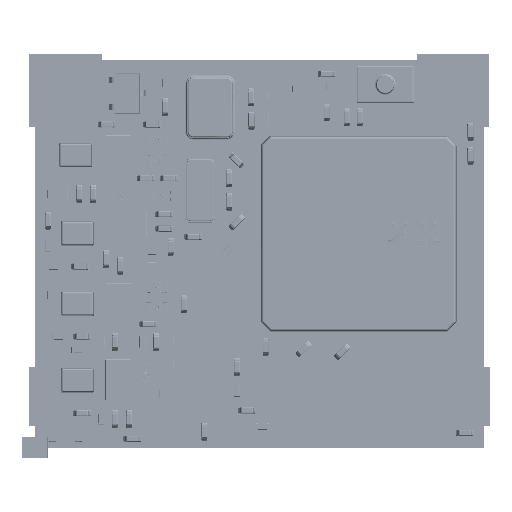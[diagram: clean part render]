
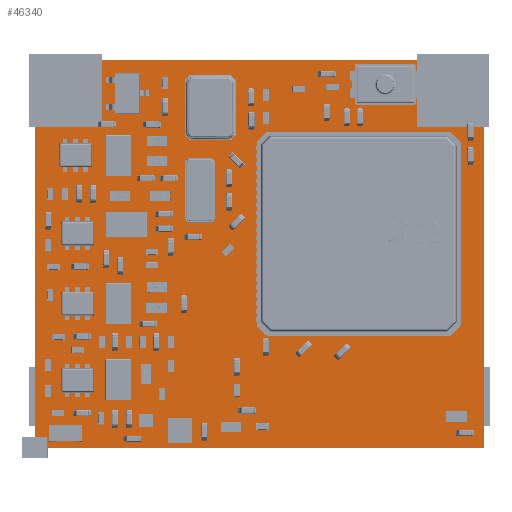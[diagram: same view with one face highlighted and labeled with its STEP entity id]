
A CAD part, top view. The second image highlights one B-rep face of the part: STEP entity #46340.
In plain terms, the highlighted planar face has unit normal (0, 0, 1).
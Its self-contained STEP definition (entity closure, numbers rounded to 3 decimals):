
#14975=CIRCLE($,#36921,0.771);
#14976=CIRCLE($,#36922,0.771);
#14979=CIRCLE($,#36927,0.771);
#14980=CIRCLE($,#36928,0.771);
#26536=FACE_OUTER_BOUND($,#31573,.F.);
#26542=FACE_OUTER_BOUND($,#31579,.T.);
#26546=FACE_OUTER_BOUND($,#31583,.T.);
#31573=EDGE_LOOP($,(#51373,#51374,#51375,#51376));
#31579=EDGE_LOOP($,(#51397,#51398));
#31583=EDGE_LOOP($,(#51409,#51410));
#36915=AXIS2_PLACEMENT_3D($,#139179,#118094,$);
#36921=AXIS2_PLACEMENT_3D($,#139191,#118094,$);
#36922=AXIS2_PLACEMENT_3D($,#139192,#118094,$);
#36927=AXIS2_PLACEMENT_3D($,#139203,#118094,$);
#36928=AXIS2_PLACEMENT_3D($,#139204,#118094,$);
#43015=PLANE($,#36915);
#46340=ADVANCED_FACE($,(#26536,#26542,#26546),#43015,.T.);
#51373=ORIENTED_EDGE($,*,*,#77430,.T.);
#51374=ORIENTED_EDGE($,*,*,#77431,.T.);
#51375=ORIENTED_EDGE($,*,*,#77432,.T.);
#51376=ORIENTED_EDGE($,*,*,#77433,.T.);
#51397=ORIENTED_EDGE($,*,*,#77443,.T.);
#51398=ORIENTED_EDGE($,*,*,#77444,.T.);
#51409=ORIENTED_EDGE($,*,*,#77450,.T.);
#51410=ORIENTED_EDGE($,*,*,#77451,.T.);
#77430=EDGE_CURVE($,#108929,#108930,#99697,.T.);
#77431=EDGE_CURVE($,#108930,#108931,#99698,.T.);
#77432=EDGE_CURVE($,#108931,#108932,#99699,.T.);
#77433=EDGE_CURVE($,#108932,#108929,#99700,.T.);
#77443=EDGE_CURVE($,#108939,#108940,#14975,.F.);
#77444=EDGE_CURVE($,#108940,#108939,#14976,.F.);
#77450=EDGE_CURVE($,#108945,#108946,#14979,.F.);
#77451=EDGE_CURVE($,#108946,#108945,#14980,.F.);
#90465=VECTOR($,#118097,19.);
#90466=VECTOR($,#118098,22.);
#90467=VECTOR($,#118099,19.);
#90468=VECTOR($,#118100,22.);
#99697=LINE($,#139178,#90465);
#99698=LINE($,#139179,#90466);
#99699=LINE($,#139180,#90467);
#99700=LINE($,#139181,#90468);
#108929=VERTEX_POINT($,#139178);
#108930=VERTEX_POINT($,#139179);
#108931=VERTEX_POINT($,#139180);
#108932=VERTEX_POINT($,#139181);
#108939=VERTEX_POINT($,#139188);
#108940=VERTEX_POINT($,#139189);
#108945=VERTEX_POINT($,#139200);
#108946=VERTEX_POINT($,#139201);
#118094=DIRECTION($,(0.,0.,1.));
#118097=DIRECTION($,(0.,-1.,0.));
#118098=DIRECTION($,(-1.,0.,0.));
#118099=DIRECTION($,(0.,1.,0.));
#118100=DIRECTION($,(1.,0.,0.));
#139178=CARTESIAN_POINT('',(22.,19.,0.));
#139179=CARTESIAN_POINT('',(22.,0.,0.));
#139180=CARTESIAN_POINT('',(0.,0.,0.));
#139181=CARTESIAN_POINT('',(0.,19.,0.));
#139188=CARTESIAN_POINT('',(2.271,17.5,0.));
#139189=CARTESIAN_POINT('',(0.729,17.5,0.));
#139191=CARTESIAN_POINT('',(1.5,17.5,0.));
#139192=CARTESIAN_POINT('',(1.5,17.5,0.));
#139200=CARTESIAN_POINT('',(21.271,17.5,0.));
#139201=CARTESIAN_POINT('',(19.729,17.5,0.));
#139203=CARTESIAN_POINT('',(20.5,17.5,0.));
#139204=CARTESIAN_POINT('',(20.5,17.5,0.));
